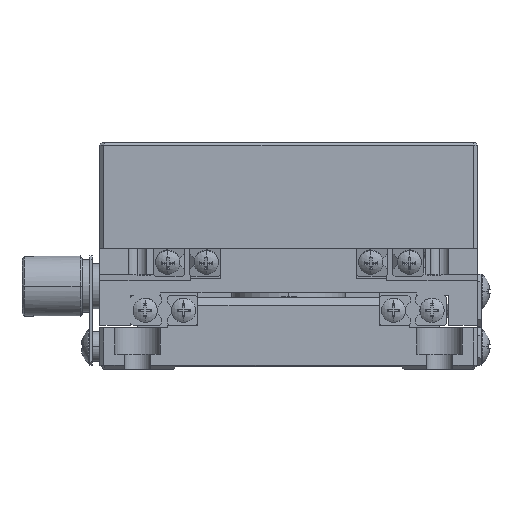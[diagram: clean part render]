
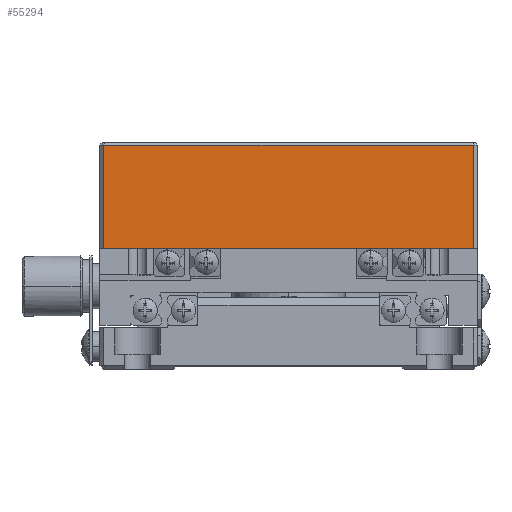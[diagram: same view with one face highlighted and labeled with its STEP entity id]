
A CAD part, left-side view. The second image highlights one B-rep face of the part: STEP entity #55294.
In plain terms, the highlighted planar face has unit normal (-1, 0, 0).
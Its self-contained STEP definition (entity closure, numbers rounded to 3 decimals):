
#4338 = LINE ( 'NONE', #4365, #32264 ) ;
#4361 = LINE ( 'NONE', #4363, #32303 ) ;
#4363 = CARTESIAN_POINT ( 'NONE',  ( -25., -49.5, 13.258 ) ) ;
#4364 = DIRECTION ( 'NONE',  ( 0., 0., 1. ) ) ;
#4365 = CARTESIAN_POINT ( 'NONE',  ( -25., -50., 12.958 ) ) ;
#4366 = DIRECTION ( 'NONE',  ( 0., 1., 0. ) ) ;
#4367 = LINE ( 'NONE', #4368, #32309 ) ;
#4368 = CARTESIAN_POINT ( 'NONE',  ( -25., -0.5, -1.508 ) ) ;
#4369 = DIRECTION ( 'NONE',  ( 0., 0., -1. ) ) ;
#4370 = LINE ( 'NONE', #4371, #32319 ) ;
#4371 = CARTESIAN_POINT ( 'NONE',  ( -25., -25., -0.742 ) ) ;
#4372 = DIRECTION ( 'NONE',  ( 0., 1., 0. ) ) ;
#8404 = EDGE_LOOP ( 'NONE', ( #40577, #40578, #40579, #40580 ) ) ;
#14701 = EDGE_CURVE ( 'NONE', #31348, #31344, #4361, .T. ) ;
#14702 = EDGE_CURVE ( 'NONE', #31344, #69772, #4338, .T. ) ;
#14703 = EDGE_CURVE ( 'NONE', #69772, #69771, #4367, .T. ) ;
#14704 = EDGE_CURVE ( 'NONE', #31348, #69771, #4370, .T. ) ;
#17318 = CARTESIAN_POINT ( 'NONE',  ( -25., -0.5, -0.742 ) ) ;
#17319 = CARTESIAN_POINT ( 'NONE',  ( -25., -0.5, 12.958 ) ) ;
#31344 = VERTEX_POINT ( 'NONE', #65869 ) ;
#31348 = VERTEX_POINT ( 'NONE', #65873 ) ;
#32264 = VECTOR ( 'NONE', #4366, 1000. ) ;
#32303 = VECTOR ( 'NONE', #4364, 1000. ) ;
#32309 = VECTOR ( 'NONE', #4369, 1000. ) ;
#32319 = VECTOR ( 'NONE', #4372, 1000. ) ;
#40577 = ORIENTED_EDGE ( 'NONE', *, *, #14701, .T. ) ;
#40578 = ORIENTED_EDGE ( 'NONE', *, *, #14702, .T. ) ;
#40579 = ORIENTED_EDGE ( 'NONE', *, *, #14703, .T. ) ;
#40580 = ORIENTED_EDGE ( 'NONE', *, *, #14704, .F. ) ;
#55294 = ADVANCED_FACE ( 'NONE', ( #67272 ), #67261, .T. ) ;
#60582 = AXIS2_PLACEMENT_3D ( 'NONE', #67265, #67277, #67279 ) ;
#65869 = CARTESIAN_POINT ( 'NONE',  ( -25., -49.5, 12.958 ) ) ;
#65873 = CARTESIAN_POINT ( 'NONE',  ( -25., -49.5, -0.742 ) ) ;
#67261 = PLANE ( 'NONE',  #60582 ) ;
#67265 = CARTESIAN_POINT ( 'NONE',  ( -25., -50., -1.508 ) ) ;
#67272 = FACE_OUTER_BOUND ( 'NONE', #8404, .T. ) ;
#67277 = DIRECTION ( 'NONE',  ( -1., 0., 0. ) ) ;
#67279 = DIRECTION ( 'NONE',  ( 0., -1., 0. ) ) ;
#69771 = VERTEX_POINT ( 'NONE', #17318 ) ;
#69772 = VERTEX_POINT ( 'NONE', #17319 ) ;
